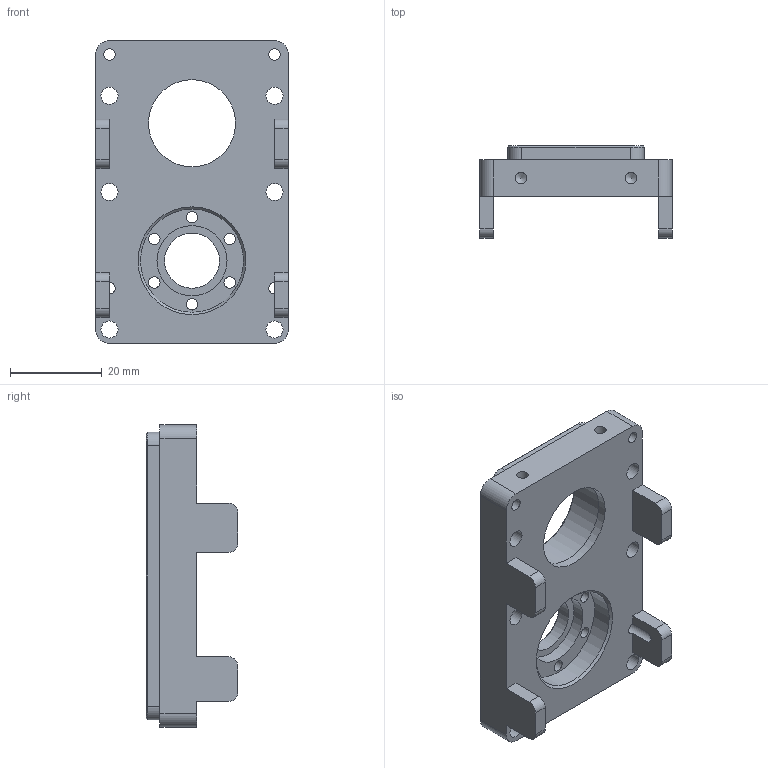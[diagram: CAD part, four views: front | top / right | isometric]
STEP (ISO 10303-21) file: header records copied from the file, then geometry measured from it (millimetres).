
FILE_DESCRIPTION(/* description */ (''),/* implementation_level */ '2;1');
FILE_NAME(/* name */ 'Linear MOTOR MOUNT.step',/* time_stamp */ '2026-10-23T15:39:24+05:30',/* author */ (''),/* organization */ (''),/* preprocessor_version */ 'ST-DEVELOPER v20.2',/* originating_system */ 'Autodesk Translation Framework v15.15.0.0',/* authorisation */ '');
FILE_SCHEMA (('AUTOMOTIVE_DESIGN { 1 0 10303 214 3 1 1 }'));
Length unit declared in the file: millimetre
Products named in the file (1): 2026-10-23-15-39-24-895
Bounding box: 42 x 20 x 66 mm (x, y, z)
Volume: 20982.9 mm3; surface area: 10422.2 mm2
Topology: 1 solids, 1 shells, 100 faces, 257 edges, 165 vertices
Faces by surface type: cylinder 47, plane 40, cone 13
Full cylindrical faces by diameter (mm): 2.5 x6, 2.529 x8, 3.74 x6, 4.5 x6, 12 x1, 15.3 x1, 19 x1, 21 x1, 22.5 x1
Entity records: 3127 total; most frequent: DIRECTION 556, CARTESIAN_POINT 517, ORIENTED_EDGE 502, EDGE_CURVE 251, AXIS2_PLACEMENT_3D 204, VERTEX_POINT 165, EDGE_LOOP 148, LINE 148
